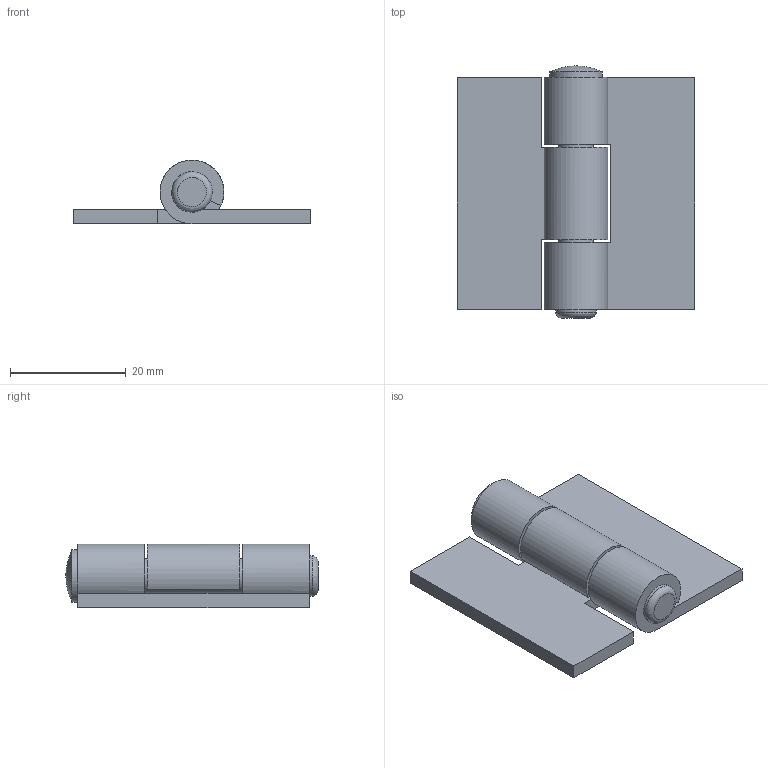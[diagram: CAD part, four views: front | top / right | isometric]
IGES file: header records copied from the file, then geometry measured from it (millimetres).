
Global section: file name: DR_HHN4041-25; native system: Autodesk Inventor 2015; preprocessor: unknown; author: Administrator; date: 20180811.152535; units: millimetre
Bounding box: 41 x 43.5 x 11 mm (x, y, z)
Volume: 6901.7 mm3; surface area: 6416.6 mm2
Topology: 3 solids, 3 shells, 34 faces, 88 edges, 61 vertices
Faces by surface type: bspline 34
